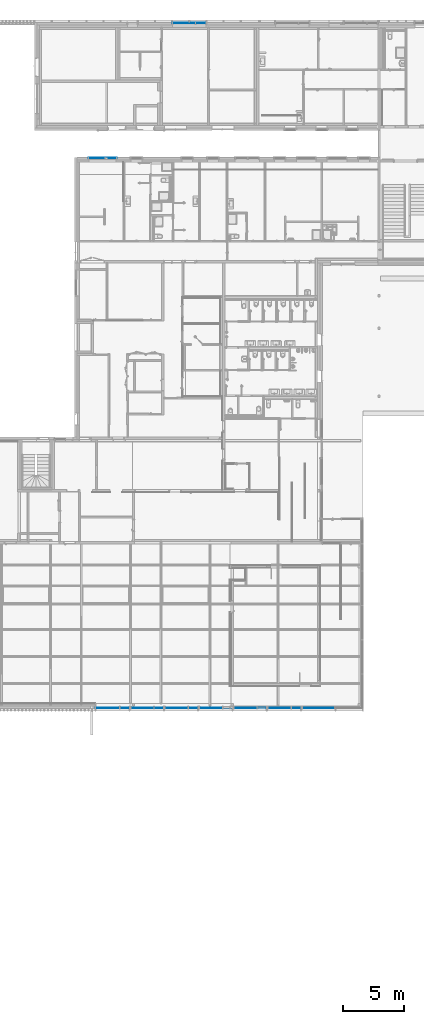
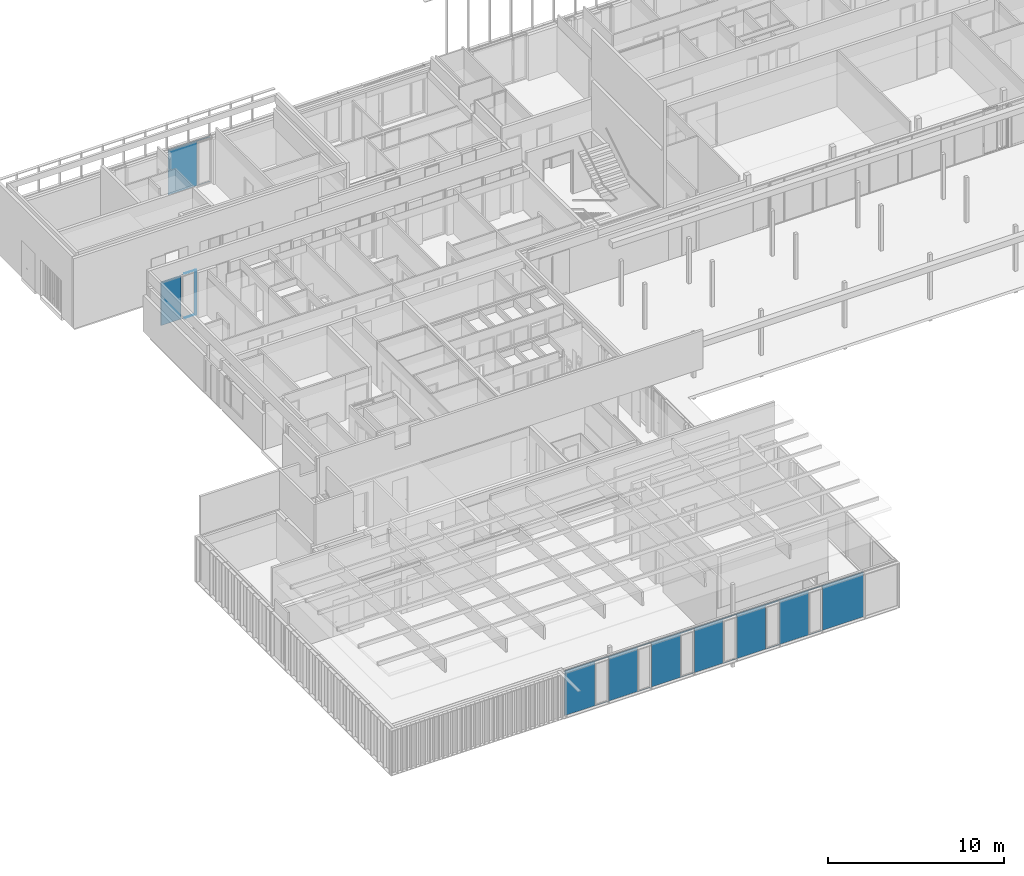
# One storey, part 176 of 240: 10 plates, 3 elements without a shape of their own.
"""IFC2X3 building model written with IfcOpenShell, lengths in centimetres."""

from ifc_helpers import new_model, entity, si_unit, converted_unit, derived_unit, direction, frame, origin, place, context, subcontext, project, spatial, faceted_brep, source, transform, mapped, material, layer, layer_set, type_object, type_shapes, element, aggregate, save


model = new_model("IFC2X3")

# Units and contexts
model_context = context("Model", 3, precision=0.001, world=origin(), true_north=direction((6.12303176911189e-17, 1.0)))
body_context = subcontext(model_context, "Body", "Model", "MODEL_VIEW")
ifc_project = project(units=[si_unit("LENGTHUNIT", "METRE", prefix="CENTI"), si_unit("AREAUNIT", "SQUARE_METRE"), si_unit("VOLUMEUNIT", "CUBIC_METRE"), converted_unit("PLANEANGLEUNIT", "DEGREE", entity("IfcRatioMeasure", 0.0174532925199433), si_unit("PLANEANGLEUNIT", "RADIAN"), dimensions=[0, 0, 0, 0, 0, 0, 0]), si_unit("MASSUNIT", "GRAM", prefix="KILO"), derived_unit("MASSDENSITYUNIT", [(si_unit("MASSUNIT", "GRAM", prefix="KILO"), 1), (si_unit("LENGTHUNIT", "METRE"), -3)]), si_unit("TIMEUNIT", "SECOND"), si_unit("FREQUENCYUNIT", "HERTZ"), si_unit("THERMODYNAMICTEMPERATUREUNIT", "DEGREE_CELSIUS"), derived_unit("THERMALTRANSMITTANCEUNIT", [(si_unit("MASSUNIT", "GRAM", prefix="KILO"), 1), (si_unit("THERMODYNAMICTEMPERATUREUNIT", "KELVIN"), -1), (si_unit("TIMEUNIT", "SECOND"), -3)]), derived_unit("VOLUMETRICFLOWRATEUNIT", [(si_unit("LENGTHUNIT", "METRE"), 3), (si_unit("TIMEUNIT", "SECOND"), -1)]), si_unit("ELECTRICCURRENTUNIT", "AMPERE"), si_unit("ELECTRICVOLTAGEUNIT", "VOLT"), si_unit("POWERUNIT", "WATT"), si_unit("FORCEUNIT", "NEWTON", prefix="KILO"), si_unit("ILLUMINANCEUNIT", "LUX"), si_unit("LUMINOUSFLUXUNIT", "LUMEN"), si_unit("LUMINOUSINTENSITYUNIT", "CANDELA"), derived_unit("USERDEFINED", [(si_unit("MASSUNIT", "GRAM", prefix="KILO"), -1), (si_unit("LENGTHUNIT", "METRE"), -2), (si_unit("TIMEUNIT", "SECOND"), 3), (si_unit("LUMINOUSFLUXUNIT", "LUMEN"), 1)]), derived_unit("LINEARVELOCITYUNIT", [(si_unit("LENGTHUNIT", "METRE"), 1), (si_unit("TIMEUNIT", "SECOND"), -1)]), si_unit("PRESSUREUNIT", "PASCAL"), derived_unit("USERDEFINED", [(si_unit("LENGTHUNIT", "METRE"), -2), (si_unit("MASSUNIT", "GRAM", prefix="KILO"), 1), (si_unit("TIMEUNIT", "SECOND"), -2)])], contexts=[model_context])

# Site, building, storey
site_placement = place(None, frame((-2781.94577612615, 7442.24238424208, 0.0)))
site = spatial("IfcSite", under=ifc_project, at=site_placement, Name="Default", CompositionType="ELEMENT")
building_placement = place(site_placement, origin())
building = spatial("IfcBuilding", under=site, at=building_placement, CompositionType="ELEMENT")
storey_placement = place(building_placement, origin())
storey = spatial("IfcBuildingStorey", under=building, at=storey_placement, Name="N00 - COO", CompositionType="ELEMENT", Elevation=0.0)

# Curtain wall, plate
curtain_wall_type_1 = type_object("IfcCurtainWallType", Name="Mur-rideau:07 - mur rideau trame 280 cm RDC maintenance", PredefinedType="NOTDEFINED")
curtain_wall_1_placement = place(building_placement, origin())
curtain_wall_1 = element("IfcCurtainWall", 1, at=curtain_wall_1_placement, inside=storey, type_object=curtain_wall_type_1, Name="Mur-rideau:07 - mur rideau trame 280 cm RDC maintenance", ObjectType="Mur-rideau:07 - mur rideau trame 280 cm RDC maintenance")
ifc_material = material(Name="Verre")
ifc_layer = layer(ifc_material, 4.0)
ifc_layer_set = layer_set([ifc_layer], Name="Panneau système:Vitré")
plate_type_1 = type_object("IfcPlateType", Name="Vitré", PredefinedType="CURTAIN_PANEL", material=ifc_layer_set)
shared_shape_1 = source(origin(), body_context, "Body", "Brep", [
    faceted_brep([(137.940625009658, -2.0, 0.0), (50.3218749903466, -2.0, 0.0), (50.3218749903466, -2.0, 307.7375), (137.071874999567, -2.0, 307.7375), (137.071875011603, -2.0, 313.11455664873), (-137.940625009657, -2.0, 313.11455664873), (-137.940625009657, -2.0, 1.73749999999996), (137.940625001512, -2.0, 1.73749999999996), (137.940625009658, 2.0, 0.0), (137.940625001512, 2.0, 1.73749999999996), (-137.940625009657, 2.0, 1.73749999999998), (-137.940625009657, 2.0, 313.11455664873), (137.071875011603, 2.0, 313.11455664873), (137.071874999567, 2.0, 307.7375), (50.3218749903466, 2.0, 307.7375), (50.3218749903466, 2.0, 0.0)], [[[0, 1, 2, 3, 4, 5, 6, 7]], [[8, 9, 10, 11, 12, 13, 14, 15]], [[1, 0, 8, 15]], [[2, 1, 15, 14]], [[3, 2, 14, 13]], [[4, 3, 13, 12]], [[5, 4, 12, 11]], [[6, 5, 11, 10]], [[7, 6, 10, 9]], [[0, 7, 9, 8]]]),
])
type_shapes(plate_type_1, [shared_shape_1])
plate_1_placement = place(curtain_wall_1_placement, frame((-9968.19050265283, 26.2000000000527, 2.38125000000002)))
plate_1 = element("IfcPlate", 2, at=plate_1_placement, type_object=plate_type_1, material=ifc_material, Name="Panneau système:Vitré", ObjectType="Panneau système:Vitré", context=body_context, shape_type="MappedRepresentation", body=[
    mapped(shared_shape_1, transform((0.0, 0.0, 0.0), scale=1.0)),
])
aggregate(curtain_wall_1, [plate_1])

# Curtain wall, plates
curtain_wall_type_2 = type_object("IfcCurtainWallType", Name="Mur-rideau:07 - mur rideau trame 160cm", PredefinedType="NOTDEFINED")
curtain_wall_2_placement = place(building_placement, origin())
curtain_wall_2 = element("IfcCurtainWall", 3, at=curtain_wall_2_placement, inside=storey, type_object=curtain_wall_type_2, Name="Mur-rideau:07 - mur rideau trame 160cm", ObjectType="Mur-rideau:07 - mur rideau trame 160cm")
plate_type_2 = type_object("IfcPlateType", Name="Vitré", PredefinedType="CURTAIN_PANEL", material=ifc_layer_set)
shared_shape_2 = source(origin(), body_context, "Body", "Brep", [
    faceted_brep([(77.9406250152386, -2.0, 0.0), (55.2031249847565, -2.0, 0.0), (55.2031249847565, -2.0, 307.7375), (77.9406250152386, -2.0, 307.7375), (77.9406250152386, -2.0, 304.499999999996), (-77.9406250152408, -2.0, 304.499999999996), (-77.9406250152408, -2.0, 1.73749999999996), (77.9406250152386, -2.0, 1.73749999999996), (77.9406250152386, 2.0, 0.0), (77.9406250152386, 2.0, 1.73749999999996), (-77.9406250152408, 2.0, 1.73749999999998), (-77.9406250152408, 2.0, 304.499999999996), (77.9406250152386, 2.0, 304.499999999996), (77.9406250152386, 2.0, 307.7375), (55.2031249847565, 2.0, 307.7375), (55.2031249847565, 2.0, 0.0)], [[[0, 1, 2, 3, 4, 5, 6, 7]], [[8, 9, 10, 11, 12, 13, 14, 15]], [[1, 0, 8, 15]], [[2, 1, 15, 14]], [[3, 2, 14, 13]], [[4, 3, 13, 12]], [[5, 4, 12, 11]], [[6, 5, 11, 10]], [[7, 6, 10, 9]], [[0, 7, 9, 8]]]),
])
type_shapes(plate_type_2, [shared_shape_2])
plate_2_placement = place(curtain_wall_2_placement, frame((-10710.8217526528, -1073.69999990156, 2.38125000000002)))
plate_2 = element("IfcPlate", 4, at=plate_2_placement, type_object=plate_type_2, material=ifc_material, Name="Panneau système:Vitré", ObjectType="Panneau système:Vitré", context=body_context, shape_type="MappedRepresentation", body=[
    mapped(shared_shape_2, transform((0.0, 0.0, 0.0), scale=1.0)),
])
plate_type_3 = type_object("IfcPlateType", Name="Vitré", PredefinedType="CURTAIN_PANEL", material=ifc_layer_set)
shared_shape_3 = source(origin(), body_context, "Body", "Brep", [
    faceted_brep([(35.0, -2.0, 0.0), (-37.4999999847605, -2.0, 0.0), (-37.4999999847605, -2.0, 1.73749999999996), (37.49999998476, -2.0, 1.73749999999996), (37.49999998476, -2.0, 308.618749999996), (-37.4999999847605, -2.0, 308.618749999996), (-37.4999999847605, -2.0, 307.7375), (35.0, -2.0, 307.7375), (35.0, 2.0, 0.0), (35.0, 2.0, 307.7375), (-37.4999999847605, 2.0, 307.7375), (-37.4999999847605, 2.0, 308.618749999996), (37.49999998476, 2.0, 308.618749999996), (37.49999998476, 2.0, 1.73749999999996), (-37.4999999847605, 2.0, 1.73749999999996), (-37.4999999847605, 2.0, 0.0)], [[[0, 1, 2, 3, 4, 5, 6, 7]], [[8, 9, 10, 11, 12, 13, 14, 15]], [[1, 0, 8, 15]], [[2, 1, 15, 14]], [[3, 2, 14, 13]], [[4, 3, 13, 12]], [[5, 4, 12, 11]], [[6, 5, 11, 10]], [[7, 6, 10, 9]], [[0, 7, 9, 8]]]),
])
type_shapes(plate_type_3, [shared_shape_3])
plate_3_placement = place(curtain_wall_2_placement, frame((-10595.3811276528, -1073.69999990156, 2.38125000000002)))
plate_3 = element("IfcPlate", 5, at=plate_3_placement, type_object=plate_type_3, material=ifc_material, Name="Panneau système:Vitré", ObjectType="Panneau système:Vitré", context=body_context, shape_type="MappedRepresentation", body=[
    mapped(shared_shape_3, transform((0.0, 0.0, 0.0), scale=1.0)),
])
aggregate(curtain_wall_2, [plate_2, plate_3])

curtain_wall_type_3 = type_object("IfcCurtainWallType", Name="Mur-rideau:07 - mur rideau trame 280 cm", PredefinedType="NOTDEFINED")
curtain_wall_3_placement = place(building_placement, origin())
curtain_wall_3 = element("IfcCurtainWall", 6, at=curtain_wall_3_placement, inside=storey, type_object=curtain_wall_type_3, Name="Mur-rideau:07 - mur rideau trame 280 cm", ObjectType="Mur-rideau:07 - mur rideau trame 280 cm")
plate_type_4 = type_object("IfcPlateType", Name="Vitré", PredefinedType="CURTAIN_PANEL", material=ifc_layer_set)
shared_shape_4 = source(origin(), body_context, "Body", "Brep", [
    faceted_brep([(137.940625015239, -2.0, 0.0), (57.071875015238, -2.0, 0.0), (57.071875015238, -2.0, 307.7375), (137.071875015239, -2.0, 307.7375), (137.071875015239, -2.0, 313.00860145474), (-137.940625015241, -2.0, 313.00860145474), (-137.940625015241, -2.0, 1.73749999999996), (137.940625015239, -2.0, 1.73749999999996), (137.940625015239, 2.0, 0.0), (137.940625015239, 2.0, 1.73749999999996), (-137.940625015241, 2.0, 1.73749999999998), (-137.940625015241, 2.0, 313.00860145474), (137.071875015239, 2.0, 313.00860145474), (137.071875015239, 2.0, 307.7375), (57.071875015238, 2.0, 307.7375), (57.071875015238, 2.0, 0.0)], [[[0, 1, 2, 3, 4, 5, 6, 7]], [[8, 9, 10, 11, 12, 13, 14, 15]], [[1, 0, 8, 15]], [[2, 1, 15, 14]], [[3, 2, 14, 13]], [[4, 3, 13, 12]], [[5, 4, 12, 11]], [[6, 5, 11, 10]], [[7, 6, 10, 9]], [[0, 7, 9, 8]]]),
])
type_shapes(plate_type_4, [shared_shape_4])
plate_4_placement = place(curtain_wall_3_placement, frame((-10592.757371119, -5562.80173441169, 2.38125000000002)))
plate_4 = element("IfcPlate", 7, at=plate_4_placement, type_object=plate_type_4, material=ifc_material, Name="Panneau système:Vitré", ObjectType="Panneau système:Vitré", context=body_context, shape_type="MappedRepresentation", body=[
    mapped(shared_shape_4, transform((0.0, 0.0, 0.0), scale=1.0)),
])
plate_type_5 = type_object("IfcPlateType", Name="Vitré", PredefinedType="CURTAIN_PANEL", material=ifc_layer_set)
shared_shape_5 = source(origin(), body_context, "Body", "Brep", [
    faceted_brep([(-129.13125, -2.0, 0.0), (-140.0, -2.0, 0.0), (-140.0, -2.0, 1.73749999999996), (140.0, -2.0, 1.73749999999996), (140.0, -2.0, 0.0), (59.13125, -2.0, 0.0), (59.13125, -2.0, 307.7375), (139.131250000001, -2.0, 307.7375), (139.131250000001, -2.0, 313.00860145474), (-139.131249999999, -2.0, 313.00860145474), (-139.131249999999, -2.0, 307.7375), (-129.13125, -2.0, 307.7375), (-129.13125, 2.0, 0.0), (-129.13125, 2.0, 307.7375), (-139.131249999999, 2.0, 307.7375), (-139.131249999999, 2.0, 313.00860145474), (139.131250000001, 2.0, 313.00860145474), (139.131250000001, 2.0, 307.7375), (59.13125, 2.0, 307.7375), (59.13125, 2.0, 0.0), (140.0, 2.0, 0.0), (140.0, 2.0, 1.73749999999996), (-140.0, 2.0, 1.73749999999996), (-140.0, 2.0, 0.0)], [[[0, 1, 2, 3, 4, 5, 6, 7, 8, 9, 10, 11]], [[12, 13, 14, 15, 16, 17, 18, 19, 20, 21, 22, 23]], [[1, 0, 12, 23]], [[2, 1, 23, 22]], [[3, 2, 22, 21]], [[4, 3, 21, 20]], [[5, 4, 20, 19]], [[6, 5, 19, 18]], [[7, 6, 18, 17]], [[8, 7, 17, 16]], [[9, 8, 16, 15]], [[10, 9, 15, 14]], [[11, 10, 14, 13]], [[0, 11, 13, 12]]]),
])
type_shapes(plate_type_5, [shared_shape_5])
plate_5_placement = place(curtain_wall_3_placement, frame((-10314.8167461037, -5562.80173441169, 2.38125000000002)))
plate_5 = element("IfcPlate", 8, at=plate_5_placement, type_object=plate_type_5, material=ifc_material, Name="Panneau système:Vitré", ObjectType="Panneau système:Vitré", context=body_context, shape_type="MappedRepresentation", body=[
    mapped(shared_shape_5, transform((0.0, 0.0, 0.0), scale=1.0)),
])
plate_type_6 = type_object("IfcPlateType", Name="Vitré", PredefinedType="CURTAIN_PANEL", material=ifc_layer_set)
shared_shape_6 = source(origin(), body_context, "Body", "Brep", [
    faceted_brep([(-129.13125, -2.0, 0.0), (-140.0, -2.0, 0.0), (-140.0, -2.0, 1.73749999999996), (140.0, -2.0, 1.73749999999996), (140.0, -2.0, 0.0), (59.1312499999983, -2.0, 0.0), (59.1312499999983, -2.0, 303.61875), (139.131249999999, -2.0, 303.61875), (139.131249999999, -2.0, 313.00860145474), (-139.131249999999, -2.0, 313.00860145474), (-139.131249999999, -2.0, 307.7375), (-129.13125, -2.0, 307.7375), (-129.13125, 2.0, 0.0), (-129.13125, 2.0, 307.7375), (-139.131249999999, 2.0, 307.7375), (-139.131249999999, 2.0, 313.00860145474), (139.131249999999, 2.0, 313.00860145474), (139.131249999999, 2.0, 303.61875), (59.1312499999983, 2.0, 303.61875), (59.1312499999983, 2.0, 0.0), (140.0, 2.0, 0.0), (140.0, 2.0, 1.73749999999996), (-140.0, 2.0, 1.73749999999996), (-140.0, 2.0, 0.0)], [[[0, 1, 2, 3, 4, 5, 6, 7, 8, 9, 10, 11]], [[12, 13, 14, 15, 16, 17, 18, 19, 20, 21, 22, 23]], [[1, 0, 12, 23]], [[2, 1, 23, 22]], [[3, 2, 22, 21]], [[4, 3, 21, 20]], [[5, 4, 20, 19]], [[6, 5, 19, 18]], [[7, 6, 18, 17]], [[8, 7, 17, 16]], [[9, 8, 16, 15]], [[10, 9, 15, 14]], [[11, 10, 14, 13]], [[0, 11, 13, 12]]]),
])
type_shapes(plate_type_6, [shared_shape_6])
plate_6_placement = place(curtain_wall_3_placement, frame((-10034.8167461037, -5562.80173441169, 2.38125000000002)))
plate_6 = element("IfcPlate", 9, at=plate_6_placement, type_object=plate_type_6, material=ifc_material, Name="Panneau système:Vitré", ObjectType="Panneau système:Vitré", context=body_context, shape_type="MappedRepresentation", body=[
    mapped(shared_shape_6, transform((0.0, 0.0, 0.0), scale=1.0)),
])
plate_type_7 = type_object("IfcPlateType", Name="Vitré", PredefinedType="CURTAIN_PANEL", material=ifc_layer_set)
shared_shape_7 = source(origin(), body_context, "Body", "Brep", [
    faceted_brep([(130.0, -2.0, 0.0), (69.1312499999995, -2.0, 0.0), (69.1312499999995, -2.0, 303.61875), (129.131250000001, -2.0, 303.61875), (129.131250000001, -2.0, 313.00860145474), (-129.13125, -2.0, 313.00860145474), (-129.13125, -2.0, 307.7375), (-119.13125, -2.0, 307.7375), (-119.13125, -2.0, 4.11874999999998), (-130.0, -2.0, 4.11874999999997), (-130.0, -2.0, 1.73749999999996), (130.0, -2.0, 1.73749999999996), (130.0, 2.0, 0.0), (130.0, 2.0, 1.73749999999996), (-130.0, 2.0, 1.73749999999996), (-130.0, 2.0, 4.11874999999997), (-119.13125, 2.0, 4.11874999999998), (-119.13125, 2.0, 307.7375), (-129.13125, 2.0, 307.7375), (-129.13125, 2.0, 313.00860145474), (129.131250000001, 2.0, 313.00860145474), (129.131250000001, 2.0, 303.61875), (69.1312499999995, 2.0, 303.61875), (69.1312499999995, 2.0, 0.0)], [[[0, 1, 2, 3, 4, 5, 6, 7, 8, 9, 10, 11]], [[12, 13, 14, 15, 16, 17, 18, 19, 20, 21, 22, 23]], [[1, 0, 12, 23]], [[2, 1, 23, 22]], [[3, 2, 22, 21]], [[4, 3, 21, 20]], [[5, 4, 20, 19]], [[6, 5, 19, 18]], [[7, 6, 18, 17]], [[8, 7, 17, 16]], [[9, 8, 16, 15]], [[10, 9, 15, 14]], [[11, 10, 14, 13]], [[0, 11, 13, 12]]]),
])
type_shapes(plate_type_7, [shared_shape_7])
plate_7_placement = place(curtain_wall_3_placement, frame((-9764.81674610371, -5562.80173441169, 2.38125000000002)))
plate_7 = element("IfcPlate", 10, at=plate_7_placement, type_object=plate_type_7, material=ifc_material, Name="Panneau système:Vitré", ObjectType="Panneau système:Vitré", context=body_context, shape_type="MappedRepresentation", body=[
    mapped(shared_shape_7, transform((0.0, 0.0, 0.0), scale=1.0)),
])
plate_type_8 = type_object("IfcPlateType", Name="Vitré", PredefinedType="CURTAIN_PANEL", material=ifc_layer_set)
shared_shape_8 = source(origin(), body_context, "Body", "Brep", [
    faceted_brep([(150.0, -2.0, 0.0), (69.1312499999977, -2.0, 0.0), (69.1312499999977, -2.0, 303.61875), (149.131249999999, -2.0, 303.61875), (149.131249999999, -2.0, 313.00860145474), (-149.131250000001, -2.0, 313.00860145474), (-149.131250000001, -2.0, 307.7375), (-119.131250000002, -2.0, 307.7375), (-119.131250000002, -2.0, 4.11874999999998), (-150.0, -2.0, 4.11874999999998), (-150.0, -2.0, 1.73749999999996), (150.0, -2.0, 1.73749999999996), (150.0, 2.0, 0.0), (150.0, 2.0, 1.73749999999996), (-150.0, 2.0, 1.73749999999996), (-150.0, 2.0, 4.11874999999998), (-119.131250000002, 2.0, 4.11874999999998), (-119.131250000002, 2.0, 307.7375), (-149.131250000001, 2.0, 307.7375), (-149.131250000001, 2.0, 313.00860145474), (149.131249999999, 2.0, 313.00860145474), (149.131249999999, 2.0, 303.61875), (69.1312499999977, 2.0, 303.61875), (69.1312499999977, 2.0, 0.0)], [[[0, 1, 2, 3, 4, 5, 6, 7, 8, 9, 10, 11]], [[12, 13, 14, 15, 16, 17, 18, 19, 20, 21, 22, 23]], [[1, 0, 12, 23]], [[2, 1, 23, 22]], [[3, 2, 22, 21]], [[4, 3, 21, 20]], [[5, 4, 20, 19]], [[6, 5, 19, 18]], [[7, 6, 18, 17]], [[8, 7, 17, 16]], [[9, 8, 16, 15]], [[10, 9, 15, 14]], [[11, 10, 14, 13]], [[0, 11, 13, 12]]]),
])
type_shapes(plate_type_8, [shared_shape_8])
plate_8_placement = place(curtain_wall_3_placement, frame((-9484.81674610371, -5562.80173441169, 2.38125000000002)))
plate_8 = element("IfcPlate", 11, at=plate_8_placement, type_object=plate_type_8, material=ifc_material, Name="Panneau système:Vitré", ObjectType="Panneau système:Vitré", context=body_context, shape_type="MappedRepresentation", body=[
    mapped(shared_shape_8, transform((0.0, 0.0, 0.0), scale=1.0)),
])
plate_type_9 = type_object("IfcPlateType", Name="Vitré", PredefinedType="CURTAIN_PANEL", material=ifc_layer_set)
shared_shape_9 = source(origin(), body_context, "Body", "Brep", [
    faceted_brep([(140.0, -2.0, 0.0), (59.1312499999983, -2.0, 0.0), (59.1312499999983, -2.0, 307.7375), (139.131249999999, -2.0, 307.7375), (139.131249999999, -2.0, 313.00860145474), (-139.131249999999, -2.0, 313.00860145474), (-139.131249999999, -2.0, 307.7375), (-129.13125, -2.0, 307.7375), (-129.13125, -2.0, 4.11874999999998), (-140.0, -2.0, 4.11874999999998), (-140.0, -2.0, 1.73749999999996), (140.0, -2.0, 1.73749999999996), (140.0, 2.0, 0.0), (140.0, 2.0, 1.73749999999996), (-140.0, 2.0, 1.73749999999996), (-140.0, 2.0, 4.11874999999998), (-129.13125, 2.0, 4.11874999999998), (-129.13125, 2.0, 307.7375), (-139.131249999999, 2.0, 307.7375), (-139.131249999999, 2.0, 313.00860145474), (139.131249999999, 2.0, 313.00860145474), (139.131249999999, 2.0, 307.7375), (59.1312499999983, 2.0, 307.7375), (59.1312499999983, 2.0, 0.0)], [[[0, 1, 2, 3, 4, 5, 6, 7, 8, 9, 10, 11]], [[12, 13, 14, 15, 16, 17, 18, 19, 20, 21, 22, 23]], [[1, 0, 12, 23]], [[2, 1, 23, 22]], [[3, 2, 22, 21]], [[4, 3, 21, 20]], [[5, 4, 20, 19]], [[6, 5, 19, 18]], [[7, 6, 18, 17]], [[8, 7, 17, 16]], [[9, 8, 16, 15]], [[10, 9, 15, 14]], [[11, 10, 14, 13]], [[0, 11, 13, 12]]]),
])
type_shapes(plate_type_9, [shared_shape_9])
plate_9_placement = place(curtain_wall_3_placement, frame((-9194.81674610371, -5562.80173441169, 2.38125000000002)))
plate_9 = element("IfcPlate", 12, at=plate_9_placement, type_object=plate_type_9, material=ifc_material, Name="Panneau système:Vitré", ObjectType="Panneau système:Vitré", context=body_context, shape_type="MappedRepresentation", body=[
    mapped(shared_shape_9, transform((0.0, 0.0, 0.0), scale=1.0)),
])
plate_type_10 = type_object("IfcPlateType", Name="Vitré", PredefinedType="CURTAIN_PANEL", material=ifc_layer_set)
shared_shape_10 = source(origin(), body_context, "Body", "Brep", [
    faceted_brep([(-129.131250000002, -2.0, 0.0), (-140.0, -2.0, 0.0), (-140.0, -2.0, 1.73749999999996), (140.0, -2.0, 1.73749999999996), (140.0, -2.0, 313.00860145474), (-139.131250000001, -2.0, 313.00860145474), (-139.131250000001, -2.0, 307.7375), (-129.131250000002, -2.0, 307.7375), (-129.131250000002, 2.0, 0.0), (-129.131250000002, 2.0, 307.7375), (-139.131250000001, 2.0, 307.7375), (-139.131250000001, 2.0, 313.00860145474), (140.0, 2.0, 313.00860145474), (140.0, 2.0, 1.73749999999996), (-140.0, 2.0, 1.73749999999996), (-140.0, 2.0, 0.0)], [[[0, 1, 2, 3, 4, 5, 6, 7]], [[8, 9, 10, 11, 12, 13, 14, 15]], [[1, 0, 8, 15]], [[2, 1, 15, 14]], [[3, 2, 14, 13]], [[4, 3, 13, 12]], [[5, 4, 12, 11]], [[6, 5, 11, 10]], [[7, 6, 10, 9]], [[0, 7, 9, 8]]]),
])
type_shapes(plate_type_10, [shared_shape_10])
plate_10_placement = place(curtain_wall_3_placement, frame((-8914.81674610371, -5562.80173441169, 2.38125000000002)))
plate_10 = element("IfcPlate", 13, at=plate_10_placement, type_object=plate_type_10, material=ifc_material, Name="Panneau système:Vitré", ObjectType="Panneau système:Vitré", context=body_context, shape_type="MappedRepresentation", body=[
    mapped(shared_shape_10, transform((0.0, 0.0, 0.0), scale=1.0)),
])
aggregate(curtain_wall_3, [plate_4, plate_5, plate_6, plate_7, plate_8, plate_9, plate_10])

save(model, "model.ifc")
